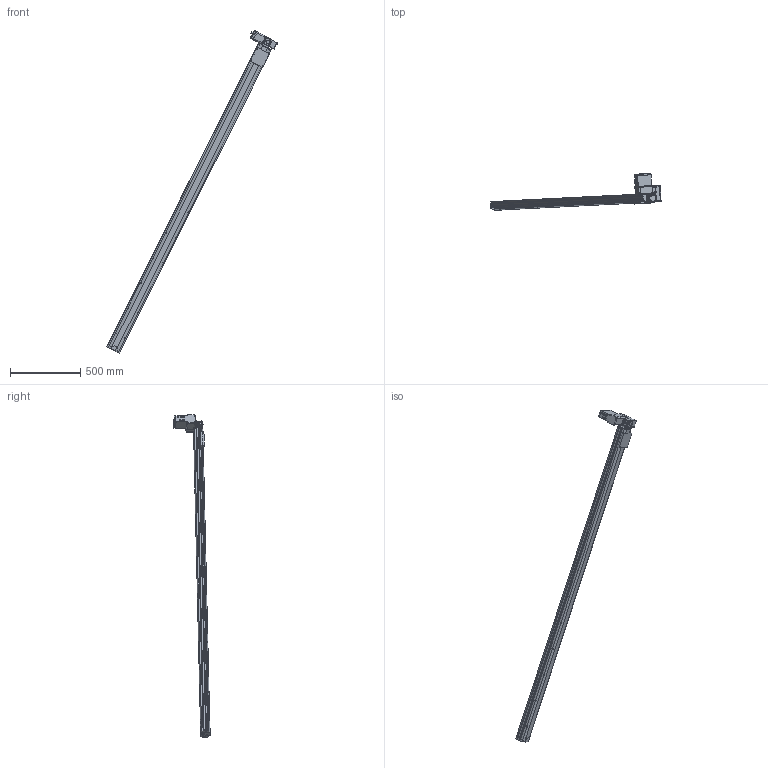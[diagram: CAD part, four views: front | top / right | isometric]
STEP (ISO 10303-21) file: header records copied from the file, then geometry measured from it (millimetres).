
FILE_DESCRIPTION (( 'STEP AP203' ), '1' );
FILE_NAME ('S10 CBH LU S2400.STEP', '2012-10-01T07:07:32', ( '' ), ( '' ), 'SwSTEP 2.0', 'SolidWorks 2010', '' );
FILE_SCHEMA (( 'CONFIG_CONTROL_DESIGN' ));
Length unit declared in the file: millimetre
Products named in the file (14): cache t皻e_Default; Cvis M5 L30_Default; vis M5 L5_Default; S10 CBH LU S2400; plaque de bout s10_Default; cache t皻e axe_Default; Plaque racord_Default; renvoi LH_Default; Vis M5 L16-2_Default_1; embout; vis M5 L12_Default; palette tbh; MOTEUR GMI 61 ; axe 2400
Assembly tree (24 placements, depth 2):
  S10 CBH LU S2400
    renvoi LH_Default
    Vis M5 L16-2_Default_1  x4
    Cvis M5 L30_Default  x2
    vis M5 L5_Default  x4
    plaque de bout s10_Default
    embout
    MOTEUR GMI 61 
    cache t皻e_Default  x2
    cache t皻e axe_Default
    Plaque racord_Default
    vis M5 L12_Default  x4
    palette tbh
    axe 2400
Bounding box: 1215.33 x 262.66 x 2289.11 mm (x, y, z)
Volume: 13594718.5 mm3; surface area: 1329192.3 mm2
Topology: 24 solids, 24 shells, 1103 faces, 2692 edges, 1670 vertices
Faces by surface type: plane 542, cylinder 412, cone 102, bspline 40, torus 7
Entity records: 27955 total; most frequent: CARTESIAN_POINT 5242, DIRECTION 4491, ORIENTED_EDGE 4200, EDGE_CURVE 2100, AXIS2_PLACEMENT_3D 1601, VERTEX_POINT 1358, VECTOR 1289, LINE 1289
